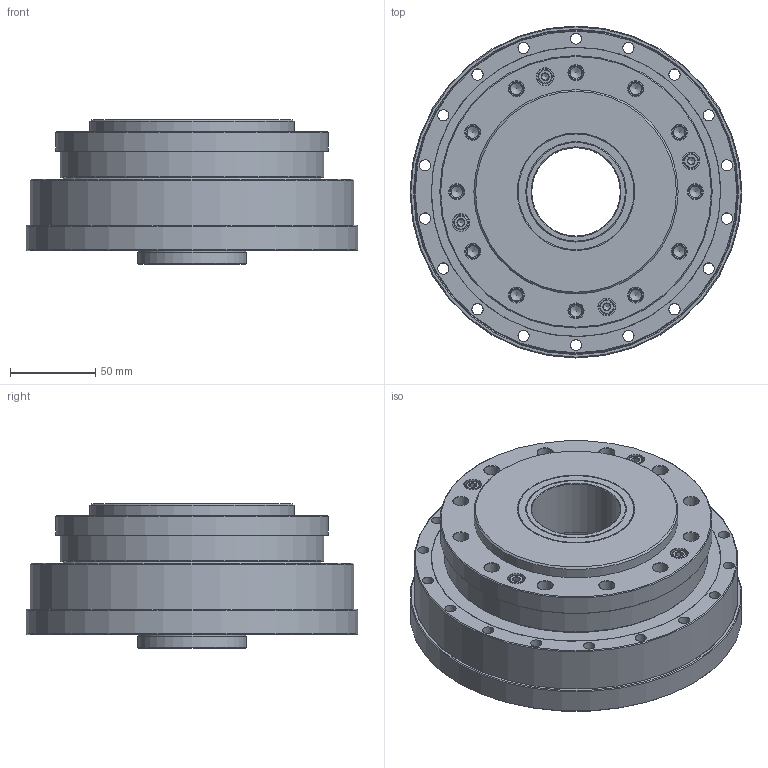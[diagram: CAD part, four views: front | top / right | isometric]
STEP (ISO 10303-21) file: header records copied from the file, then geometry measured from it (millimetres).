
FILE_DESCRIPTION(/* description */ (''),/* implementation_level */ '2;1');
FILE_NAME(/* name */ 'FHG-45-XX-U-III.stp',/* time_stamp */ '2024-12-06T10:28:14+08:00',/* author */ (''),/* organization */ (''),/* preprocessor_version */ 'ST-DEVELOPER v16.7',/* originating_system */ 'SIEMENS PLM Software NX 12.0',/* authorisation */ '');
FILE_SCHEMA (('AUTOMOTIVE_DESIGN { 1 0 10303 214 3 1 1 1 }'));
Length unit declared in the file: millimetre
Products named in the file (23): TC-152x170x7_stp; EB7911016-45KCH-46; EB7911016-45KCH-04; EB7911016-45KCH-02; EB7911016-45KCH-01; 轴用弹性挡圈φ65; 孔用弹性挡圈φ90; GB-T276_60000-1994,61913; GB-T276_60000-1994,61813; SC-65x85x8; SC-59x68x5; 内六角平圆头螺钉M4x12; GB-T70.1-2000,M5x30; 发生器FHG-45-XX-III_stp; LHT-45-00-Ⅲ上壳体_stp; LHT-45-00-Ⅲ下壳体_stp; O型密封圈128-122.8-1.5; O型密封圈170-164-1.5; 刚轮FHG-45; 柔轮FHG-45; 交叉轴承LHT-45_stp; EB7911016-45KCH_stp; FHG-45-XX-U-III
Assembly tree (32 placements, depth 3):
  FHG-45-XX-U-III
    柔轮FHG-45
    刚轮FHG-45
    EB7911016-45KCH_stp
      EB7911016-45KCH-01
      EB7911016-45KCH-02
      EB7911016-45KCH-04
      EB7911016-45KCH-46
    交叉轴承LHT-45_stp
      TC-152x170x7_stp
    O型密封圈170-164-1.5  x2
    O型密封圈128-122.8-1.5  x2
    LHT-45-00-Ⅲ下壳体_stp
    LHT-45-00-Ⅲ上壳体_stp
    发生器FHG-45-XX-III_stp
    GB-T70.1-2000,M5x30  x4
    内六角平圆头螺钉M4x12  x6
    SC-59x68x5
    SC-65x85x8
    GB-T276_60000-1994,61813
    GB-T276_60000-1994,61913
    孔用弹性挡圈φ90
    轴用弹性挡圈φ65
Bounding box: 195 x 195 x 85 mm (x, y, z)
Volume: 1302002.5 mm3; surface area: 549880.6 mm2
Topology: 94 solids, 94 shells, 1154 faces, 2606 edges, 1591 vertices
Faces by surface type: cone 358, cylinder 326, plane 313, torus 96, sphere 61
Full cylindrical faces by diameter (mm): 3 x4, 3.3 x18, 3.838 x6, 4.2 x4, 4.5 x12, 4.826 x4, 5.5 x8, 6.5 x36, 6.6 x18, 6.8 x12, 7 x6, 8.5 x10, 9 x24, 10 x8, 52 x2, 52.5 x1, 58.5 x1, 59 x2, 62 x1, 63.5 x1, 64 x1, 64.5 x2, 65 x6, 68 x2, 69 x1, 70 x1, 71.667 x2, 73.334 x2, 77.6 x1, 78.333 x2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
Entity records: 25774 total; most frequent: CARTESIAN_POINT 5143, DIRECTION 4412, ORIENTED_EDGE 3074, AXIS2_PLACEMENT_3D 2016, EDGE_CURVE 1537, EDGE_LOOP 1527, VERTEX_POINT 1215, FACE_BOUND 1197
